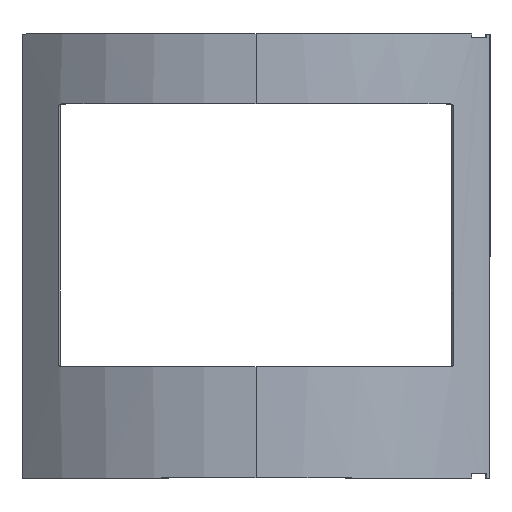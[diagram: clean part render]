
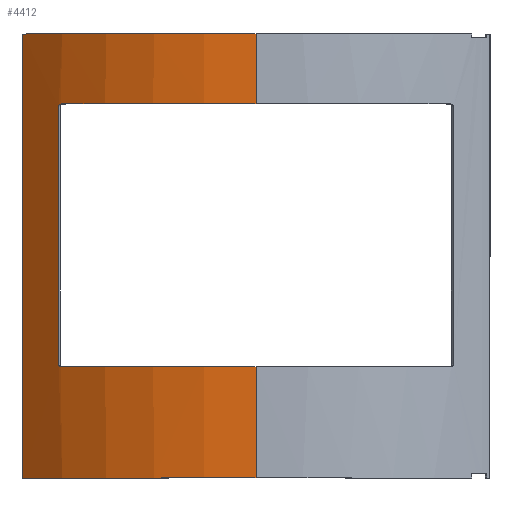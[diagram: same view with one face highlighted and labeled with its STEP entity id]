
A CAD part, top view. The second image highlights one B-rep face of the part: STEP entity #4412.
In plain terms, the highlighted cylindrical face has radius 467 mm (diameter 934 mm), a partial arc.
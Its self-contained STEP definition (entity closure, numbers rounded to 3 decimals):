
#48 = DIRECTION ( 'NONE',  ( 0., 1., 0. ) ) ;
#121 = DIRECTION ( 'NONE',  ( 0., 1., 0. ) ) ;
#272 = VERTEX_POINT ( 'NONE', #469 ) ;
#371 = LINE ( 'NONE', #11827, #7875 ) ;
#372 = CARTESIAN_POINT ( 'NONE',  ( -352.215, 159., -215.843 ) ) ;
#402 = VECTOR ( 'NONE', #11416, 1000. ) ;
#469 = CARTESIAN_POINT ( 'NONE',  ( -355.426, 163., -218.25 ) ) ;
#629 = DIRECTION ( 'NONE',  ( 0., 1., 0. ) ) ;
#634 = CARTESIAN_POINT ( 'NONE',  ( -355.426, -658.357, -218.25 ) ) ;
#739 = ORIENTED_EDGE ( 'NONE', *, *, #11539, .F. ) ;
#887 = CIRCLE ( 'NONE', #6799, 467. ) ;
#900 = CIRCLE ( 'NONE', #9286, 467. ) ;
#1465 = CARTESIAN_POINT ( 'NONE',  ( -352.215, 534., -215.843 ) ) ;
#1544 = CARTESIAN_POINT ( 'NONE',  ( -73.663, 159., -123.673 ) ) ;
#1569 = CARTESIAN_POINT ( 'NONE',  ( -73.663, 534., -123.673 ) ) ;
#1771 = CARTESIAN_POINT ( 'NONE',  ( -73.663, -658.357, -123.673 ) ) ;
#1781 = ORIENTED_EDGE ( 'NONE', *, *, #6580, .F. ) ;
#1836 = EDGE_CURVE ( 'NONE', #3654, #10128, #7933, .T. ) ;
#1890 = AXIS2_PLACEMENT_3D ( 'NONE', #10068, #4164, #11068 ) ;
#2015 = CARTESIAN_POINT ( 'NONE',  ( -352.215, 534., -215.843 ) ) ;
#2135 = EDGE_LOOP ( 'NONE', ( #11057, #5259, #3808, #1781, #10392, #739, #8485, #7164, #5523, #12285 ) ) ;
#2527 = CARTESIAN_POINT ( 'NONE',  ( -406.351, 634., -262.942 ) ) ;
#2763 = DIRECTION ( 'NONE',  ( 0., 1., 0. ) ) ;
#3026 = DIRECTION ( 'NONE',  ( 0., 0., 1. ) ) ;
#3654 = VERTEX_POINT ( 'NONE', #372 ) ;
#3806 = CARTESIAN_POINT ( 'NONE',  ( -355.426, 163., -218.25 ) ) ;
#3808 = ORIENTED_EDGE ( 'NONE', *, *, #1836, .F. ) ;
#4104 = VERTEX_POINT ( 'NONE', #8920 ) ;
#4164 = DIRECTION ( 'NONE',  ( 0., -1., 0. ) ) ;
#4284 = CARTESIAN_POINT ( 'NONE',  ( -73.663, 0., -123.673 ) ) ;
#4288 = EDGE_CURVE ( 'NONE', #11364, #6533, #900, .T. ) ;
#4412 = ADVANCED_FACE ( 'NONE', ( #7790 ), #4875, .T. ) ;
#4649 = CIRCLE ( 'NONE', #1890, 467. ) ;
#4659 = LINE ( 'NONE', #1771, #9597 ) ;
#4681 = CARTESIAN_POINT ( 'NONE',  ( -73.663, 534., -590.673 ) ) ;
#4717 = VERTEX_POINT ( 'NONE', #1569 ) ;
#4759 = CARTESIAN_POINT ( 'NONE',  ( -355.245, 160.55, -218.114 ) ) ;
#4847 = EDGE_CURVE ( 'NONE', #4717, #11260, #887, .T. ) ;
#4875 = CYLINDRICAL_SURFACE ( 'NONE', #5738, 467. ) ;
#4942 = CARTESIAN_POINT ( 'NONE',  ( -355.253, 532.441, -218.119 ) ) ;
#5063 = DIRECTION ( 'NONE',  ( 0., -1., 0. ) ) ;
#5259 = ORIENTED_EDGE ( 'NONE', *, *, #6303, .T. ) ;
#5523 = ORIENTED_EDGE ( 'NONE', *, *, #4288, .F. ) ;
#5676 = DIRECTION ( 'NONE',  ( 0., 0., 1. ) ) ;
#5738 = AXIS2_PLACEMENT_3D ( 'NONE', #11876, #121, #3026 ) ;
#5757 = CARTESIAN_POINT ( 'NONE',  ( -352.215, 159., -215.843 ) ) ;
#5816 = CARTESIAN_POINT ( 'NONE',  ( -73.663, 634., -590.673 ) ) ;
#5957 = CARTESIAN_POINT ( 'NONE',  ( -406.351, 0., -262.942 ) ) ;
#6049 = VERTEX_POINT ( 'NONE', #4284 ) ;
#6303 = EDGE_CURVE ( 'NONE', #6049, #10128, #4659, .T. ) ;
#6491 = CARTESIAN_POINT ( 'NONE',  ( -73.663, 159., -590.673 ) ) ;
#6533 = VERTEX_POINT ( 'NONE', #8658 ) ;
#6580 = EDGE_CURVE ( 'NONE', #272, #3654, #8627, .T. ) ;
#6781 = DIRECTION ( 'NONE',  ( 0., 0., 1. ) ) ;
#6799 = AXIS2_PLACEMENT_3D ( 'NONE', #4681, #11572, #5676 ) ;
#7164 = ORIENTED_EDGE ( 'NONE', *, *, #10305, .T. ) ;
#7480 = DIRECTION ( 'NONE',  ( 0., 0., 1. ) ) ;
#7790 = FACE_OUTER_BOUND ( 'NONE', #2135, .T. ) ;
#7875 = VECTOR ( 'NONE', #48, 1000. ) ;
#7933 = CIRCLE ( 'NONE', #11049, 467. ) ;
#8485 = ORIENTED_EDGE ( 'NONE', *, *, #4847, .F. ) ;
#8627 = B_SPLINE_CURVE_WITH_KNOTS ( 'NONE', 3,
 ( #3806, #4759, #11666, #5757 ),
 .UNSPECIFIED., .F., .F.,
 ( 4, 4 ),
 ( 0., 1. ),
 .UNSPECIFIED. ) ;
#8658 = CARTESIAN_POINT ( 'NONE',  ( -73.663, 634., -123.673 ) ) ;
#8713 = VERTEX_POINT ( 'NONE', #5957 ) ;
#8877 = CARTESIAN_POINT ( 'NONE',  ( -354.188, 533.774, -217.309 ) ) ;
#8920 = CARTESIAN_POINT ( 'NONE',  ( -355.426, 530., -218.25 ) ) ;
#9286 = AXIS2_PLACEMENT_3D ( 'NONE', #5816, #12712, #6781 ) ;
#9586 = VECTOR ( 'NONE', #5063, 1000. ) ;
#9597 = VECTOR ( 'NONE', #2763, 1000. ) ;
#9940 = CARTESIAN_POINT ( 'NONE',  ( -406.351, 8.5, -262.942 ) ) ;
#10068 = CARTESIAN_POINT ( 'NONE',  ( -73.663, 0., -590.673 ) ) ;
#10128 = VERTEX_POINT ( 'NONE', #1544 ) ;
#10305 = EDGE_CURVE ( 'NONE', #4717, #6533, #371, .T. ) ;
#10392 = ORIENTED_EDGE ( 'NONE', *, *, #11386, .F. ) ;
#10405 = EDGE_CURVE ( 'NONE', #11364, #8713, #12201, .T. ) ;
#10458 = EDGE_CURVE ( 'NONE', #6049, #8713, #4649, .T. ) ;
#10862 = LINE ( 'NONE', #634, #402 ) ;
#10922 = B_SPLINE_CURVE_WITH_KNOTS ( 'NONE', 3,
 ( #2015, #8877, #4942, #11835 ),
 .UNSPECIFIED., .F., .F.,
 ( 4, 4 ),
 ( 0., 1. ),
 .UNSPECIFIED. ) ;
#11049 = AXIS2_PLACEMENT_3D ( 'NONE', #6491, #629, #7480 ) ;
#11057 = ORIENTED_EDGE ( 'NONE', *, *, #10458, .F. ) ;
#11068 = DIRECTION ( 'NONE',  ( 0., 0., 1. ) ) ;
#11260 = VERTEX_POINT ( 'NONE', #1465 ) ;
#11364 = VERTEX_POINT ( 'NONE', #2527 ) ;
#11386 = EDGE_CURVE ( 'NONE', #4104, #272, #10862, .T. ) ;
#11416 = DIRECTION ( 'NONE',  ( 0., -1., 0. ) ) ;
#11539 = EDGE_CURVE ( 'NONE', #11260, #4104, #10922, .T. ) ;
#11572 = DIRECTION ( 'NONE',  ( 0., -1., 0. ) ) ;
#11666 = CARTESIAN_POINT ( 'NONE',  ( -354.181, 159.217, -217.304 ) ) ;
#11827 = CARTESIAN_POINT ( 'NONE',  ( -73.663, -658.357, -123.673 ) ) ;
#11835 = CARTESIAN_POINT ( 'NONE',  ( -355.426, 530., -218.25 ) ) ;
#11876 = CARTESIAN_POINT ( 'NONE',  ( -73.663, -658.357, -590.673 ) ) ;
#12201 = LINE ( 'NONE', #9940, #9586 ) ;
#12285 = ORIENTED_EDGE ( 'NONE', *, *, #10405, .T. ) ;
#12712 = DIRECTION ( 'NONE',  ( 0., 1., 0. ) ) ;
